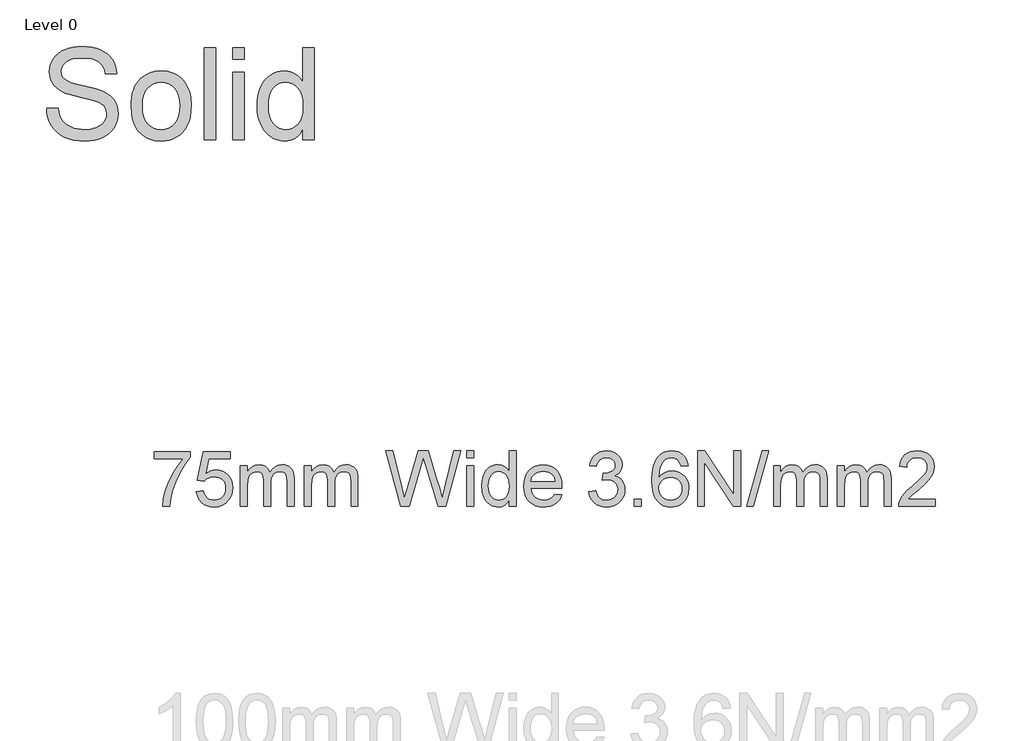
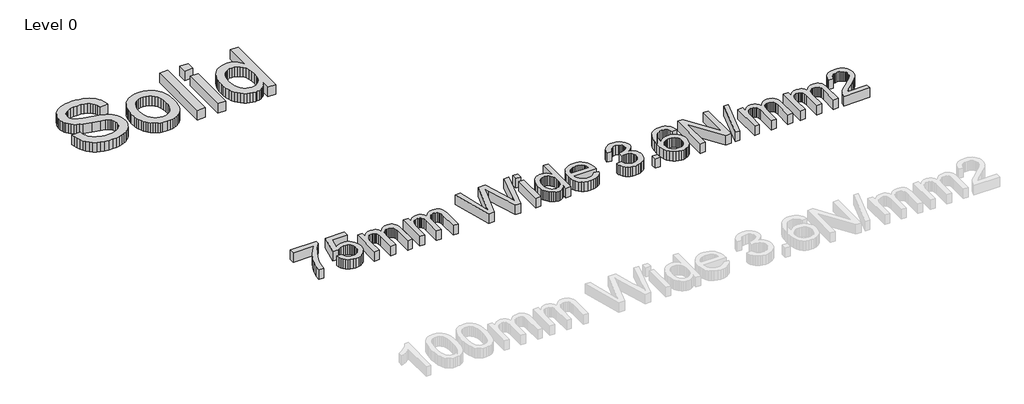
# One storey, part 3 of 4: 2 proxies.
"""IFC4 building model written with IfcOpenShell, lengths in millimetres."""

from ifc_helpers import new_model, si_unit, origin, origin_with_axes, place, context, project, spatial, polyline, outline, extrude, element, save

model = new_model("IFC4")

# Units and contexts
model_context = context("Model", 3, world=origin())
ifc_project = project(units=[si_unit("LENGTHUNIT", "METRE", prefix="MILLI")], contexts=[model_context])

# Site, building, storey
site = spatial("IfcSite", under=ifc_project)
building = spatial("IfcBuilding", under=site)
storey = spatial("IfcBuildingStorey", under=building, Name="Level 0", Elevation=0.0)

# Proxies
placement = place(None, origin())
element("IfcBuildingElementProxy", 1, Name="1000", ObjectType="1000", at=placement, inside=storey, context=model_context, shape_type="SweptSolid", body=[
    extrude(outline(polyline([(-38523.2944991, 23663.4581055), (-38400.8702566, 23663.4581055), (-38395.2661196, 23627.8232659), (-38386.822553, 23595.5210198), (-38375.5395571, 23566.5513672), (-38361.4171316, 23540.9143081), (-38343.7379472, 23518.094262), (-38321.7846743, 23497.5756481), (-38295.5573127, 23479.3584665), (-38265.0558627, 23463.4427172), (-38231.4011515, 23450.5233132), (-38195.7140066, 23441.2951675), (-38157.994428, 23435.7582801), (-38118.2424157, 23433.9126509), (-38050.0363315, 23439.5018437), (-38019.1164392, 23446.4883345), (-37990.3186468, 23456.2694218), (-37964.3528117, 23468.4939128), (-37941.9287912, 23482.810615), (-37923.0465854, 23499.2195283), (-37907.7061941, 23517.7206528), (-37895.8328957, 23537.514465), (-37887.3519683, 23557.8014412), (-37882.2634118, 23578.5815815), (-37880.5672263, 23599.8548858), (-37885.6483106, 23640.8323361), (-37900.8915635, 23676.2504824), (-37913.7138291, 23691.9644827), (-37931.8562888, 23706.4679895), (-37955.3189427, 23719.7610026), (-37984.1017907, 23731.8435222), (-38048.751116, 23751.0619762), (-38162.3581828, 23778.5894975), (-38279.3725649, 23809.5243342), (-38322.0760894, 23824.4313388), (-38354.2438362, 23838.9647343), (-38386.9346358, 23858.4671313), (-38415.1869588, 23880.1514057), (-38439.0008053, 23904.0175574), (-38458.3761752, 23930.0655865), (-38473.3877904, 23958.0264945), (-38484.1103726, 23987.6312826), (-38490.543922, 24018.8799509), (-38492.6884385, 24051.7724994), (-38490.0358136, 24088.2292791), (-38482.0779389, 24123.4755652), (-38468.8148145, 24157.5113577), (-38450.2464404, 24190.3366566), (-38426.5820375, 24220.6139412), (-38398.0308272, 24247.0056907), (-38364.5928093, 24269.5119052), (-38326.2679839, 24288.1325847), (-38284.3490386, 24302.7257576), (-38240.128661, 24313.1494526), (-38193.6068511, 24319.4036695), (-38144.7836089, 24321.4884085), (-38091.5218902, 24319.3065312), (-38041.4881544, 24312.760899), (-37994.6824015, 24301.8515122), (-37951.1046316, 24286.5783706), (-37911.5618404, 24267.0759736), (-37876.8610237, 24243.4788205), (-37847.0021814, 24215.7869111), (-37821.9853135, 24184.0002456), (-37802.0046967, 24149.0453747), (-37787.254608, 24111.8488489), (-37777.7350471, 24072.4106682), (-37773.4460142, 24030.7308328), (-37895.8702566, 24030.7308328), (-37904.059769, 24069.7954043), (-37918.3465824, 24103.7788915), (-37938.730697, 24132.6812944), (-37965.2121127, 24156.5026131), (-37998.2839936, 24175.1232925), (-38038.4395038, 24188.4237778), (-38085.6786432, 24196.404069), (-38140.0014119, 24199.0641661), (-38196.057727, 24196.4339578), (-38243.9544186, 24188.5433328), (-38283.6914865, 24175.3922911), (-38315.2689309, 24156.9808328), (-38339.3293594, 24134.8482274), (-38356.5153797, 24110.5337447), (-38366.826992, 24084.0373846), (-38370.264196, 24055.3591472), (-38367.8282645, 24030.6859997), (-38360.5204697, 24008.3142845), (-38348.3408118, 23988.2440016), (-38331.2892907, 23970.4751509), (-38304.4492102, 23953.6477954), (-38262.1865445, 23936.6411074), (-38204.5012936, 23919.455087), (-38131.3934574, 23902.0897343), (-37996.4159479, 23869.2719076), (-37948.9227543, 23854.4321526), (-37914.7599347, 23840.6385032), (-37877.2271606, 23819.7313358), (-37844.9697476, 23796.2238489), (-37817.9876957, 23770.1160423), (-37796.2810047, 23741.4079161), (-37779.5956206, 23710.248914), (-37767.6774891, 23676.7884795), (-37760.5266102, 23641.0266128), (-37758.1429839, 23602.9633138), (-37760.885275, 23564.6683772), (-37769.1121482, 23527.4942679), (-37782.8236036, 23491.4409861), (-37802.0196411, 23456.5085316), (-37826.3640126, 23424.0493697), (-37855.5204697, 23395.4159653), (-37889.4890126, 23370.6083186), (-37928.2696411, 23349.6264294), (-37970.7340558, 23332.9410452), (-38015.7539569, 23321.0229137), (-38063.3293446, 23313.8720348), (-38113.4602188, 23311.4884085), (-38176.0845825, 23314.0588394), (-38233.4036965, 23321.770132), (-38285.4175607, 23334.6222864), (-38332.1261752, 23352.6153025), (-38373.8134828, 23375.779069), (-38410.7634266, 23404.1434748), (-38442.9760065, 23437.7085198), (-38470.4512225, 23476.474204), (-38492.5838279, 23519.1852007), (-38508.7685758, 23564.5861831), (-38519.0054662, 23612.6771514), (-38523.2944991, 23663.4581055)])), origin_with_axes(), (0.0, 0.0, 1.0), 150.0),
    extrude(outline(polyline([(-37620.4157112, 23686.4126509), (-37618.7606227, 23734.5970215), (-37613.7953573, 23779.5608813), (-37605.5199148, 23821.3042303), (-37593.9342955, 23859.8270686), (-37579.0384991, 23895.129396), (-37560.8325258, 23927.2112127), (-37539.3163755, 23956.0725187), (-37514.4900483, 23981.7133138), (-37467.8337391, 24016.5486299), (-37416.3354555, 24041.4309985), (-37359.9951975, 24056.3604196), (-37298.812965, 24061.3368934), (-37231.271905, 24055.2769531), (-37199.9279663, 24047.7020279), (-37170.2017552, 24037.0971325), (-37142.0932717, 24023.462267), (-37115.6025158, 24006.7974314), (-37090.7294874, 23987.1026256), (-37067.4741866, 23964.3778498), (-37046.4306519, 23938.9817686), (-37028.1929218, 23911.2730469), (-37012.7609963, 23881.2516846), (-37000.1348755, 23848.9176817), (-36990.3145593, 23814.2710383), (-36983.3000477, 23777.3117543), (-36977.6884385, 23696.4552646), (-36980.1692031, 23630.9242217), (-36987.6114972, 23572.7756955), (-37000.0153206, 23522.0096857), (-37017.3806733, 23478.6261926), (-37039.4908621, 23441.153196), (-37066.1291937, 23408.118676), (-37097.295668, 23379.5226326), (-37132.990285, 23355.3650657), (-37171.8232189, 23336.1690282), (-37212.4046435, 23322.4575728), (-37254.7345588, 23314.2306996), (-37298.812965, 23311.4884085), (-37367.3403531, 23317.5259322), (-37399.02054, 23325.0728368), (-37428.9783887, 23335.6385032), (-37457.2138994, 23349.2229315), (-37483.7270719, 23365.8261216), (-37508.5179062, 23385.4480735), (-37531.5864025, 23408.0887873), (-37552.4057717, 23433.5689305), (-37570.449225, 23461.7091708), (-37585.7167625, 23492.5095082), (-37598.208384, 23525.9699426), (-37607.9240896, 23562.0904741), (-37614.8638794, 23600.8711026), (-37620.4157112, 23686.4126509)]), holes=[polyline([(-37497.9914688, 23686.6517608), (-37494.4496541, 23627.2703244), (-37483.8242102, 23575.8542348), (-37466.1151371, 23532.403492), (-37441.3224347, 23496.918096), (-37411.164705, 23469.3532138), (-37377.3605502, 23449.6640122), (-37339.9099702, 23437.8504913), (-37298.812965, 23433.9126509), (-37257.9251809, 23437.8729078), (-37220.6240445, 23449.7536784), (-37186.9095559, 23469.5549627), (-37156.781715, 23497.2767608), (-37131.9890126, 23533.1133493), (-37114.2799394, 23577.2590051), (-37103.6544955, 23629.7137281), (-37100.1126809, 23690.4775184), (-37103.6769121, 23747.9759647), (-37114.3696056, 23798.0470615), (-37132.1907615, 23840.6908085), (-37157.1403797, 23875.9072059), (-37187.3803034, 23903.4720881), (-37221.0723755, 23923.1612897), (-37258.216596, 23934.9748106), (-37298.812965, 23938.9126509), (-37339.9099702, 23934.989755), (-37377.3605502, 23923.2210671), (-37411.164705, 23903.6065874), (-37441.3224347, 23876.1463157), (-37466.1151371, 23840.7655303), (-37483.8242102, 23797.3895094), (-37494.4496541, 23746.0182529), (-37497.9914688, 23686.6517608)])]), origin_with_axes(), (0.0, 0.0, 1.0), 150.0),
    extrude(outline(polyline([(-36839.9611657, 23326.7914388), (-36839.9611657, 24306.1853782), (-36717.5369233, 24306.1853782), (-36717.5369233, 23326.7914388), (-36839.9611657, 23326.7914388)])), origin_with_axes(), (0.0, 0.0, 1.0), 150.0),
    extrude(outline(polyline([(-36533.9005597, 23326.7914388), (-36533.9005597, 24046.0338631), (-36411.4763172, 24046.0338631), (-36411.4763172, 23326.7914388), (-36533.9005597, 23326.7914388)])), origin_with_axes(), (0.0, 0.0, 1.0), 150.0),
    extrude(outline(polyline([(-36533.9005597, 24183.7611358), (-36533.9005597, 24306.1853782), (-36411.4763172, 24306.1853782), (-36411.4763172, 24183.7611358), (-36533.9005597, 24183.7611358)])), origin_with_axes(), (0.0, 0.0, 1.0), 150.0),
    extrude(outline(polyline([(-35784.0520748, 23326.7914388), (-35784.0520748, 23442.2814956), (-35801.3987471, 23411.6268658), (-35820.6807147, 23385.05952), (-35841.8979777, 23362.5794582), (-35865.050536, 23344.1866803), (-35890.1383896, 23329.8811864), (-35917.1615386, 23319.6629765), (-35946.1199829, 23313.5320505), (-35977.0137225, 23311.4884085), (-36017.4232869, 23314.4473929), (-36056.1590824, 23323.324346), (-36093.2211089, 23338.1192679), (-36128.6093665, 23358.8321585), (-36161.2179721, 23384.8428267), (-36189.9410426, 23415.5310813), (-36214.7785781, 23450.8969224), (-36235.7305786, 23490.9403498), (-36252.3636574, 23534.899201), (-36264.244428, 23582.0113133), (-36271.3728904, 23632.2766868), (-36273.7490445, 23685.6953214), (-36271.559695, 23738.1351), (-36264.9916463, 23788.094114), (-36254.0448986, 23835.5723633), (-36238.7194517, 23880.5698479), (-36219.0227779, 23921.7714637), (-36194.9623494, 23957.8621064), (-36166.5381662, 23988.8417762), (-36133.7502282, 24014.7104729), (-36097.7567239, 24035.1095319), (-36059.7158414, 24049.6802883), (-36019.6275809, 24058.4227421), (-35977.4919422, 24061.3368934), (-35946.6766605, 24059.2521544), (-35917.5949252, 24052.9979374), (-35890.2467363, 24042.5742424), (-35864.6320938, 24027.9810695), (-35841.0349406, 24010.0553031), (-35819.7392197, 23989.6338276), (-35800.7449311, 23966.716643), (-35784.0520748, 23941.3037494), (-35784.0520748, 24306.1853782), (-35661.6278324, 24306.1853782), (-35661.6278324, 23326.7914388), (-35784.0520748, 23326.7914388)]), holes=[polyline([(-36151.3248021, 23686.1735411), (-36147.8726537, 23626.807049), (-36137.5162083, 23575.4357925), (-36120.2554662, 23532.0597716), (-36096.0904271, 23496.6789862), (-36067.2328573, 23469.2187145), (-36035.8945227, 23449.6042348), (-36002.0754235, 23437.8355469), (-35965.7755597, 23433.9126509), (-35929.3038356, 23437.6562145), (-35895.6864853, 23448.8869052), (-35864.9235089, 23467.604723), (-35837.0149063, 23493.809668), (-35813.8436675, 23527.7109612), (-35797.2927827, 23569.5178238), (-35787.3622518, 23619.2302557), (-35784.0520748, 23676.848257), (-35787.4220292, 23740.0180901), (-35797.5318925, 23794.1914151), (-35814.3816647, 23839.3682321), (-35837.9713457, 23875.5485411), (-35866.4926673, 23903.2703392), (-35898.1373613, 23923.0716235), (-35932.9054277, 23934.9523941), (-35970.7968665, 23938.9126509), (-36007.8140599, 23935.1093099), (-36041.6331591, 23923.6992868), (-36072.2541641, 23904.6825817), (-36099.6770748, 23878.0591945), (-36122.2729555, 23843.246295), (-36138.4128703, 23799.6610529), (-36148.0968191, 23747.3034683), (-36151.3248021, 23686.1735411)])]), origin_with_axes(), (0.0, 0.0, 1.0), 150.0),
])
element("IfcBuildingElementProxy", 2, Name="600mm Arial", ObjectType="600mm Arial", at=placement, inside=storey, context=model_context, shape_type="SweptSolid", body=[
    extrude(outline(polyline([(-37374.294588, 19918.2501483), (-37374.294588, 19992.0963022), (-36986.6022803, 19992.0963022), (-36986.6022803, 19932.3847637), (-37041.8606938, 19862.4508695), (-37096.5782419, 19773.5145714), (-37144.841463, 19673.6888503), (-37180.7368957, 19571.0866868), (-37198.3330495, 19494.3198599), (-37208.1407419, 19410.5578406), (-37281.9868957, 19410.5578406), (-37274.0001169, 19486.6756291), (-37252.6359342, 19577.1443791), (-37218.4712707, 19673.0398118), (-37172.0830495, 19765.4376483), (-37117.9243957, 19848.9652926), (-37060.4484342, 19918.2501483), (-37374.294588, 19918.2501483)])), origin_with_axes(), (0.0, 0.0, 1.0), 150.0),
    extrude(outline(polyline([(-36921.9868957, 19567.4809176), (-36848.1407419, 19576.7116868), (-36842.6239149, 19552.9722036), (-36834.5830495, 19532.3787541), (-36824.0181457, 19514.9313382), (-36810.9292034, 19500.629956), (-36795.3432659, 19489.4926363), (-36777.2873765, 19481.537408), (-36756.7615351, 19476.7642709), (-36733.7657419, 19475.1732253), (-36705.6407419, 19477.3862661), (-36680.8330495, 19484.0253887), (-36659.3426649, 19495.090593), (-36641.169588, 19510.5818791), (-36626.7194678, 19529.7330209), (-36616.3979534, 19551.7777926), (-36610.2050447, 19576.716194), (-36608.1407419, 19604.5482253), (-36610.0743356, 19630.8523118), (-36615.8751169, 19654.2357253), (-36625.5430856, 19674.6984656), (-36639.0782419, 19692.240533), (-36656.5256577, 19706.3120474), (-36677.9304053, 19716.3631291), (-36703.2924846, 19722.3937781), (-36732.6118957, 19724.4039945), (-36768.435213, 19721.1948599), (-36797.4436265, 19711.567456), (-36820.6106938, 19696.8198599), (-36838.9099726, 19678.2501483), (-36912.7561265, 19687.4809176), (-36848.1407419, 19992.0963022), (-36561.9868957, 19992.0963022), (-36561.9868957, 19918.2501483), (-36788.4292034, 19918.2501483), (-36820.0157419, 19755.5578406), (-36793.9550447, 19774.2357253), (-36767.263338, 19787.5770714), (-36739.9406217, 19795.5818791), (-36711.9868957, 19798.2501483), (-36676.0238548, 19794.9418551), (-36642.9905015, 19785.0169753), (-36612.8868356, 19768.4755089), (-36585.7128572, 19745.317456), (-36563.2173645, 19716.958081), (-36547.1491553, 19684.8126483), (-36537.5082298, 19648.881158), (-36534.294588, 19609.1636099), (-36537.1882178, 19570.9063983), (-36545.8691072, 19535.317456), (-36560.3372563, 19502.396783), (-36580.5926649, 19472.1443791), (-36611.2777611, 19441.161807), (-36647.0830495, 19419.0313983), (-36688.0085303, 19405.7531531), (-36734.0542034, 19401.3270714), (-36772.162677, 19404.1711219), (-36806.5842515, 19412.7032733), (-36837.318927, 19426.9235257), (-36864.3667034, 19446.8318791), (-36886.8712106, 19471.4367469), (-36903.9760784, 19499.7465426), (-36915.6813068, 19531.7612661), (-36921.9868957, 19567.4809176)])), origin_with_axes(), (0.0, 0.0, 1.0), 150.0),
    extrude(outline(polyline([(-36451.2176649, 19410.5578406), (-36451.2176649, 19844.4039945), (-36377.3715111, 19844.4039945), (-36377.3715111, 19773.0097637), (-36355.1599726, 19805.8042349), (-36326.6022803, 19831.4953406), (-36292.6719919, 19848.099908), (-36254.3426649, 19853.6347637), (-36213.2729534, 19847.9917349), (-36195.793987, 19840.9379488), (-36180.3522803, 19831.0626483), (-36155.7609342, 19803.9652926), (-36139.6792034, 19767.817456), (-36112.7621361, 19805.3625281), (-36082.0590111, 19832.1804368), (-36047.5698284, 19848.271182), (-36009.294588, 19853.6347637), (-35979.7317875, 19851.403694), (-35953.7837707, 19844.7104849), (-35931.4505375, 19833.5551363), (-35912.732088, 19817.9376483), (-35897.9349125, 19797.6777325), (-35887.3655015, 19772.5951003), (-35881.0238548, 19742.6897517), (-35878.9099726, 19707.9616868), (-35878.9099726, 19410.5578406), (-35952.7561265, 19410.5578406), (-35952.7561265, 19676.2309176), (-35954.4688669, 19713.0638503), (-35959.607088, 19737.8895714), (-35969.2344919, 19754.8907733), (-35984.4147803, 19768.2501483), (-36003.9400207, 19776.9039945), (-36026.6022803, 19779.7886099), (-36047.5292635, 19777.9406531), (-36066.6082899, 19772.396783), (-36083.8393596, 19763.1569993), (-36099.2224726, 19750.2213022), (-36111.8742154, 19733.2110858), (-36120.9111745, 19711.7477445), (-36126.33335, 19685.8312781), (-36128.1407419, 19655.4616868), (-36128.1407419, 19410.5578406), (-36201.9868957, 19410.5578406), (-36201.9868957, 19684.4520714), (-36206.2597322, 19726.2068791), (-36219.0782419, 19755.990533), (-36228.9896, 19766.4021916), (-36241.6323284, 19773.8390906), (-36257.006427, 19778.3012301), (-36275.1118957, 19779.7886099), (-36303.5614149, 19775.8222637), (-36329.7753572, 19763.9232253), (-36351.4099726, 19744.379956), (-36366.1215111, 19717.4809176), (-36374.5590111, 19680.161206), (-36377.3715111, 19629.3559176), (-36377.3715111, 19410.5578406), (-36451.2176649, 19410.5578406)])), origin_with_axes(), (0.0, 0.0, 1.0), 150.0),
    extrude(outline(polyline([(-35768.1407419, 19410.5578406), (-35768.1407419, 19844.4039945), (-35694.294588, 19844.4039945), (-35694.294588, 19773.0097637), (-35672.0830495, 19805.8042349), (-35643.5253572, 19831.4953406), (-35609.5950688, 19848.099908), (-35571.2657419, 19853.6347637), (-35530.1960303, 19847.9917349), (-35512.717064, 19840.9379488), (-35497.2753572, 19831.0626483), (-35472.6840111, 19803.9652926), (-35456.6022803, 19767.817456), (-35429.685213, 19805.3625281), (-35398.982088, 19832.1804368), (-35364.4929053, 19848.271182), (-35326.2176649, 19853.6347637), (-35296.6548645, 19851.403694), (-35270.7068476, 19844.7104849), (-35248.3736145, 19833.5551363), (-35229.6551649, 19817.9376483), (-35214.8579895, 19797.6777325), (-35204.2885784, 19772.5951003), (-35197.9469318, 19742.6897517), (-35195.8330495, 19707.9616868), (-35195.8330495, 19410.5578406), (-35269.6792034, 19410.5578406), (-35269.6792034, 19676.2309176), (-35271.3919438, 19713.0638503), (-35276.5301649, 19737.8895714), (-35286.1575688, 19754.8907733), (-35301.3378572, 19768.2501483), (-35320.8630976, 19776.9039945), (-35343.5253572, 19779.7886099), (-35364.4523404, 19777.9406531), (-35383.5313669, 19772.396783), (-35400.7624366, 19763.1569993), (-35416.1455495, 19750.2213022), (-35428.7972923, 19733.2110858), (-35437.8342515, 19711.7477445), (-35443.256427, 19685.8312781), (-35445.0638188, 19655.4616868), (-35445.0638188, 19410.5578406), (-35518.9099726, 19410.5578406), (-35518.9099726, 19684.4520714), (-35523.1828092, 19726.2068791), (-35536.0013188, 19755.990533), (-35545.912677, 19766.4021916), (-35558.5554053, 19773.8390906), (-35573.9295039, 19778.3012301), (-35592.0349726, 19779.7886099), (-35620.4844919, 19775.8222637), (-35646.6984342, 19763.9232253), (-35668.3330495, 19744.379956), (-35683.044588, 19717.4809176), (-35691.482088, 19680.161206), (-35694.294588, 19629.3559176), (-35694.294588, 19410.5578406), (-35768.1407419, 19410.5578406)])), origin_with_axes(), (0.0, 0.0, 1.0), 150.0),
    extrude(outline(polyline([(-34739.3426649, 19410.5578406), (-34900.4484342, 20001.3270714), (-34824.294588, 20001.3270714), (-34730.8330495, 19613.0578406), (-34701.9868957, 19493.2020714), (-34671.1215111, 19599.2116868), (-34554.0061265, 20001.3270714), (-34444.2465111, 20001.3270714), (-34359.1503572, 19709.8366868), (-34322.6960303, 19601.6636099), (-34295.8330495, 19493.2020714), (-34267.8522803, 19609.5963022), (-34173.5253572, 20001.3270714), (-34097.3715111, 20001.3270714), (-34258.6215111, 19410.5578406), (-34337.5157419, 19410.5578406), (-34479.1503572, 19866.3270714), (-34498.9099726, 19929.9328406), (-34521.1215111, 19853.3463022), (-34650.2080495, 19410.5578406), (-34739.3426649, 19410.5578406)])), origin_with_axes(), (0.0, 0.0, 1.0), 150.0),
    extrude(outline(polyline([(-34032.7561265, 19927.4809176), (-34032.7561265, 20001.3270714), (-33958.9099726, 20001.3270714), (-33958.9099726, 19927.4809176), (-34032.7561265, 19927.4809176)])), origin_with_axes(), (0.0, 0.0, 1.0), 150.0),
    extrude(outline(polyline([(-34032.7561265, 19410.5578406), (-34032.7561265, 19844.4039945), (-33958.9099726, 19844.4039945), (-33958.9099726, 19410.5578406), (-34032.7561265, 19410.5578406)])), origin_with_axes(), (0.0, 0.0, 1.0), 150.0),
    extrude(outline(polyline([(-33580.4484342, 19410.5578406), (-33580.4484342, 19480.2213022), (-33602.5427851, 19445.7050762), (-33629.3066072, 19421.0506291), (-33660.7399005, 19406.2579608), (-33696.8426649, 19401.3270714), (-33721.2176649, 19403.1119272), (-33744.5830495, 19408.4664945), (-33766.9388188, 19417.3907733), (-33788.2849726, 19429.8847637), (-33807.9544438, 19445.5743671), (-33825.2801649, 19464.0854849), (-33840.2621361, 19485.4181171), (-33852.9003572, 19509.5722637), (-33862.9334101, 19536.0881892), (-33870.0998765, 19564.506158), (-33875.8330495, 19627.0482253), (-33870.5505976, 19688.8150522), (-33854.7032419, 19744.5963022), (-33842.8222322, 19769.4490666), (-33828.3090111, 19791.2188983), (-33811.1635784, 19809.9057974), (-33791.3859342, 19825.5097637), (-33769.6746962, 19837.8144512), (-33746.7284822, 19846.6035137), (-33722.5472923, 19851.8769512), (-33697.1311265, 19853.6347637), (-33661.0013188, 19848.6047156), (-33629.0542034, 19833.5145714), (-33601.9748765, 19810.3835618), (-33580.4484342, 19781.2309176), (-33580.4484342, 20001.3270714), (-33506.6022803, 20001.3270714), (-33506.6022803, 19410.5578406), (-33580.4484342, 19410.5578406)]), holes=[polyline([(-33801.9868957, 19627.3366868), (-33799.904564, 19591.5268911), (-33793.6575688, 19560.5398118), (-33783.2459101, 19534.3754488), (-33768.669588, 19513.0338022), (-33751.262737, 19496.4697998), (-33732.3594919, 19484.6383695), (-33711.9598524, 19477.5395113), (-33690.0638188, 19475.1732253), (-33668.0641193, 19477.4313382), (-33647.7861745, 19484.2056772), (-33629.2299846, 19495.4962421), (-33612.3955495, 19511.303033), (-33598.4186866, 19531.7522517), (-33588.435213, 19556.9701003), (-33582.4451289, 19586.9565786), (-33580.4484342, 19621.7116868), (-33582.4811866, 19659.8156531), (-33588.5794438, 19692.4929368), (-33598.7432058, 19719.7435378), (-33612.9724726, 19741.567456), (-33630.1764991, 19758.2892108), (-33649.2645399, 19770.2333214), (-33670.2365952, 19777.3997878), (-33693.0926649, 19779.7886099), (-33715.4213909, 19777.4944392), (-33735.8210303, 19770.6119272), (-33754.2915832, 19759.1410738), (-33770.8330495, 19743.0818791), (-33784.4628572, 19722.0827805), (-33794.1984342, 19695.7922156), (-33800.0397803, 19664.2101844), (-33801.9868957, 19627.3366868)])]), origin_with_axes(), (0.0, 0.0, 1.0), 150.0),
    extrude(outline(polyline([(-33092.0830495, 19539.7886099), (-33019.6792034, 19530.5578406), (-33030.7804654, 19501.5584416), (-33045.7669438, 19476.0025522), (-33064.6386385, 19453.8901724), (-33087.3955495, 19435.2213022), (-33113.803302, 19420.3925762), (-33143.6275207, 19409.8006291), (-33176.8682058, 19403.4454608), (-33213.5253572, 19401.3270714), (-33259.3456697, 19404.98242), (-33300.1719919, 19415.9484656), (-33336.0043236, 19434.2252084), (-33366.8426649, 19459.8126483), (-33391.6413428, 19491.9986459), (-33409.3546842, 19530.0710618), (-33419.982689, 19574.0298959), (-33423.5253572, 19623.8751483), (-33419.9466313, 19675.4106051), (-33409.2104534, 19720.834283), (-33391.3168236, 19760.146182), (-33366.2657419, 19793.3463022), (-33335.5085303, 19819.7225041), (-33300.4965111, 19838.5626483), (-33261.2296842, 19849.8667349), (-33217.7080495, 19853.6347637), (-33175.5881577, 19849.8757493), (-33137.497713, 19838.598706), (-33103.4367154, 19819.8036339), (-33073.4051649, 19793.490533), (-33048.8904414, 19760.3625281), (-33031.3799245, 19721.1227445), (-33020.8736145, 19675.771182), (-33017.3715111, 19624.3078406), (-33017.8042034, 19604.4039945), (-33349.6792034, 19604.4039945), (-33345.4018596, 19574.9358455), (-33336.8967515, 19549.1275522), (-33324.1638789, 19526.9791147), (-33307.2032419, 19508.490533), (-33286.9523404, 19493.9142108), (-33264.3486745, 19483.5025522), (-33239.3922443, 19477.255557), (-33212.0830495, 19475.1732253), (-33172.7801649, 19479.0313983), (-33139.6792034, 19490.6059176), (-33112.7801649, 19510.6179368), (-33092.0830495, 19539.7886099)]), holes=[polyline([(-33349.6792034, 19678.2501483), (-33091.2176649, 19678.2501483), (-33101.2056457, 19717.2645714), (-33109.7963909, 19732.6071195), (-33120.7849726, 19745.1732253), (-33140.9231938, 19760.317456), (-33163.8378572, 19771.1347637), (-33189.528963, 19777.6251483), (-33217.9965111, 19779.7886099), (-33243.9625568, 19778.0623479), (-33267.7741553, 19772.8835618), (-33289.4313068, 19764.2522517), (-33308.9340111, 19752.1684176), (-33325.2996962, 19737.1909536), (-33337.5457899, 19719.8787541), (-33345.6722923, 19700.231819), (-33349.6792034, 19678.2501483)])]), origin_with_axes(), (0.0, 0.0, 1.0), 150.0),
    extrude(outline(polyline([(-32731.2176649, 19567.4809176), (-32657.3715111, 19576.7116868), (-32640.8390592, 19530.3054368), (-32629.692725, 19512.7543551), (-32616.6263188, 19498.9713022), (-32601.3423645, 19488.5596435), (-32583.5433861, 19481.1227445), (-32563.2293837, 19476.6606051), (-32540.4003572, 19475.1732253), (-32513.6455495, 19477.2194993), (-32489.7753572, 19483.3583214), (-32468.7897803, 19493.5896916), (-32450.6888188, 19507.9136099), (-32436.1124967, 19525.2573599), (-32425.700838, 19544.5482253), (-32419.4538428, 19565.786206), (-32417.3715111, 19588.9713022), (-32419.435814, 19611.0521315), (-32425.6287226, 19631.1407733), (-32435.950237, 19649.2372277), (-32450.4003572, 19665.3414945), (-32468.0325688, 19678.5611459), (-32487.9003572, 19688.0037541), (-32510.0037226, 19693.669319), (-32534.3426649, 19695.5578406), (-32557.6719919, 19693.5386099), (-32586.1215111, 19687.4809176), (-32577.9003572, 19761.3270714), (-32566.0734342, 19760.4616868), (-32521.8306457, 19765.7621676), (-32482.2753572, 19781.6636099), (-32465.9953092, 19793.6888503), (-32454.3667034, 19808.5626483), (-32447.3895399, 19826.2850041), (-32445.0638188, 19846.8559176), (-32446.7495159, 19863.5551363), (-32451.8066072, 19878.7489464), (-32460.2350928, 19892.4373479), (-32472.0349726, 19904.6203406), (-32486.4941072, 19914.621843), (-32502.9003572, 19921.7657733), (-32541.5542034, 19927.4809176), (-32580.2801649, 19921.7116868), (-32596.9929053, 19914.5001483), (-32611.9388188, 19904.4039945), (-32624.748314, 19891.4232253), (-32635.0517995, 19875.5578406), (-32642.8492755, 19856.8078406), (-32648.1407419, 19835.1732253), (-32721.9868957, 19844.4039945), (-32713.2338909, 19879.6594031), (-32700.2441072, 19910.7140906), (-32683.0175447, 19937.568057), (-32661.5542034, 19960.2213022), (-32636.5301649, 19978.2050762), (-32608.6215111, 19991.0506291), (-32577.8282419, 19998.7579608), (-32544.1503572, 20001.3270714), (-32497.7260784, 19996.2609656), (-32455.0878572, 19981.0626483), (-32419.138338, 19957.084283), (-32392.7801649, 19925.678033), (-32376.6082899, 19889.4941387), (-32371.2176649, 19851.1828406), (-32376.3378572, 19815.4857253), (-32391.6984342, 19783.1059176), (-32417.0830495, 19755.521783), (-32452.2753572, 19734.2116868), (-32427.6659822, 19726.5133695), (-32406.0493957, 19715.5338022), (-32387.4255976, 19701.2729849), (-32371.794588, 19683.7309176), (-32359.4267995, 19663.3402926), (-32350.5926649, 19640.5338022), (-32345.2921842, 19615.3114464), (-32343.5253572, 19587.6732253), (-32347.0590111, 19550.209283), (-32357.6599726, 19515.7020714), (-32375.3282419, 19484.1515906), (-32400.0638188, 19455.5578406), (-32430.1990351, 19431.8318791), (-32464.0662226, 19414.8847637), (-32501.6653813, 19404.7164945), (-32542.9965111, 19401.3270714), (-32580.3522803, 19404.2207012), (-32614.3907419, 19412.9015906), (-32645.1118957, 19427.3697397), (-32672.5157419, 19447.6251483), (-32695.4935063, 19472.4779128), (-32712.9364149, 19500.7381291), (-32724.8444678, 19532.4057974), (-32731.2176649, 19567.4809176)])), origin_with_axes(), (0.0, 0.0, 1.0), 150.0),
    extrude(outline(polyline([(-32241.9868957, 19410.5578406), (-32241.9868957, 19484.4039945), (-32168.1407419, 19484.4039945), (-32168.1407419, 19410.5578406), (-32241.9868957, 19410.5578406)])), origin_with_axes(), (0.0, 0.0, 1.0), 150.0),
    extrude(outline(polyline([(-31669.6792034, 19844.4039945), (-31743.5253572, 19835.1732253), (-31755.4243957, 19871.771783), (-31771.5061265, 19896.7597637), (-31787.3805255, 19910.2002685), (-31805.0037226, 19919.8006291), (-31824.3757178, 19925.5608455), (-31845.4965111, 19927.4809176), (-31879.8234342, 19923.0097637), (-31912.1311265, 19909.5963022), (-31939.8775207, 19881.3451003), (-31962.5397803, 19842.4568791), (-31971.396451, 19817.653694), (-31977.8462707, 19787.4508695), (-31983.5253572, 19710.8463022), (-31953.903963, 19745.4076003), (-31918.4051649, 19769.7645714), (-31879.0121361, 19784.2056772), (-31837.7080495, 19789.0193791), (-31802.2272803, 19785.7291147), (-31769.4868957, 19775.8583214), (-31739.4868957, 19759.4069993), (-31712.2272803, 19736.3751483), (-31689.5740351, 19708.1329608), (-31673.3931457, 19676.0506291), (-31663.684612, 19640.1281531), (-31660.4484342, 19600.365533), (-31666.5421842, 19547.4869272), (-31674.1593717, 19522.4944392), (-31684.8234342, 19498.4664945), (-31698.1557659, 19476.3000281), (-31713.7777611, 19456.8919753), (-31731.6894197, 19440.2423358), (-31751.8907419, 19426.3511099), (-31773.9490351, 19415.403093), (-31797.4316072, 19407.583081), (-31822.3384582, 19402.8910738), (-31848.669588, 19401.3270714), (-31892.6915231, 19405.473706), (-31932.4496361, 19417.9136099), (-31967.943927, 19438.646783), (-31999.1743957, 19467.6732253), (-32024.6356337, 19506.2188983), (-32042.8222322, 19555.5097637), (-32053.7341914, 19615.5458214), (-32057.3715111, 19686.3270714), (-32053.3330495, 19765.6810378), (-32041.2176649, 19833.4063983), (-32021.0253572, 19889.5031531), (-32007.9003572, 19913.1908034), (-31992.7561265, 19933.9713022), (-31962.1161024, 19963.4394512), (-31926.5902611, 19984.4881291), (-31886.1786024, 19997.1173358), (-31840.8811265, 20001.3270714), (-31806.8697082, 19998.7219031), (-31776.0854534, 19990.9063983), (-31748.528362, 19977.880557), (-31724.1984342, 19959.6443791), (-31703.7537226, 19936.8108455), (-31687.8522803, 19909.9929368), (-31676.4941072, 19879.1906531), (-31669.6792034, 19844.4039945)]), holes=[polyline([(-31983.5253572, 19601.5193791), (-31979.2525207, 19568.7970233), (-31966.4340111, 19537.553033), (-31946.5301649, 19510.6900522), (-31921.0013188, 19491.1107253), (-31890.1900207, 19479.1576003), (-31854.4388188, 19475.1732253), (-31828.7702491, 19477.2375281), (-31805.7068476, 19483.4304368), (-31785.2486145, 19493.7519512), (-31767.3955495, 19508.2020714), (-31752.9138789, 19526.1948599), (-31742.5698284, 19547.1443791), (-31736.3633981, 19571.0506291), (-31734.294588, 19597.9136099), (-31736.3363548, 19623.7264104), (-31742.4616553, 19646.645581), (-31752.6704895, 19666.6711219), (-31766.9628572, 19683.803033), (-31784.8700087, 19697.5274921), (-31805.9231938, 19707.3306772), (-31830.1224125, 19713.2125882), (-31857.4676649, 19715.1732253), (-31882.7936866, 19713.2125882), (-31906.1275207, 19707.3306772), (-31927.4691673, 19697.5274921), (-31946.8186265, 19683.803033), (-31962.8778212, 19666.8964825), (-31974.3486745, 19647.5470233), (-31981.2311866, 19625.7546555), (-31983.5253572, 19601.5193791)])]), origin_with_axes(), (0.0, 0.0, 1.0), 150.0),
    extrude(outline(polyline([(-31568.1407419, 19410.5578406), (-31568.1407419, 20001.3270714), (-31489.1022803, 20001.3270714), (-31180.4484342, 19533.2982253), (-31180.4484342, 20001.3270714), (-31106.6022803, 20001.3270714), (-31106.6022803, 19410.5578406), (-31185.6407419, 19410.5578406), (-31494.294588, 19878.7309176), (-31494.294588, 19410.5578406), (-31568.1407419, 19410.5578406)])), origin_with_axes(), (0.0, 0.0, 1.0), 150.0),
    extrude(outline(polyline([(-31041.9868957, 19410.5578406), (-30875.8330495, 20001.3270714), (-30809.1984342, 20001.3270714), (-30975.3522803, 19410.5578406), (-31041.9868957, 19410.5578406)])), origin_with_axes(), (0.0, 0.0, 1.0), 150.0),
    extrude(outline(polyline([(-30755.8330495, 19410.5578406), (-30755.8330495, 19844.4039945), (-30681.9868957, 19844.4039945), (-30681.9868957, 19773.0097637), (-30659.7753572, 19805.8042349), (-30631.2176649, 19831.4953406), (-30597.2873765, 19848.099908), (-30558.9580495, 19853.6347637), (-30517.888338, 19847.9917349), (-30500.4093717, 19840.9379488), (-30484.9676649, 19831.0626483), (-30460.3763188, 19803.9652926), (-30444.294588, 19767.817456), (-30417.3775207, 19805.3625281), (-30386.6743957, 19832.1804368), (-30352.185213, 19848.271182), (-30313.9099726, 19853.6347637), (-30284.3471721, 19851.403694), (-30258.3991553, 19844.7104849), (-30236.0659221, 19833.5551363), (-30217.3474726, 19817.9376483), (-30202.5502971, 19797.6777325), (-30191.9808861, 19772.5951003), (-30185.6392395, 19742.6897517), (-30183.5253572, 19707.9616868), (-30183.5253572, 19410.5578406), (-30257.3715111, 19410.5578406), (-30257.3715111, 19676.2309176), (-30259.0842515, 19713.0638503), (-30264.2224726, 19737.8895714), (-30273.8498765, 19754.8907733), (-30289.0301649, 19768.2501483), (-30308.5554053, 19776.9039945), (-30331.2176649, 19779.7886099), (-30352.1446481, 19777.9406531), (-30371.2236745, 19772.396783), (-30388.4547443, 19763.1569993), (-30403.8378572, 19750.2213022), (-30416.4896, 19733.2110858), (-30425.5265592, 19711.7477445), (-30430.9487346, 19685.8312781), (-30432.7561265, 19655.4616868), (-30432.7561265, 19410.5578406), (-30506.6022803, 19410.5578406), (-30506.6022803, 19684.4520714), (-30510.8751169, 19726.2068791), (-30523.6936265, 19755.990533), (-30533.6049846, 19766.4021916), (-30546.247713, 19773.8390906), (-30561.6218116, 19778.3012301), (-30579.7272803, 19779.7886099), (-30608.1767995, 19775.8222637), (-30634.3907419, 19763.9232253), (-30656.0253572, 19744.379956), (-30670.7368957, 19717.4809176), (-30679.1743957, 19680.161206), (-30681.9868957, 19629.3559176), (-30681.9868957, 19410.5578406), (-30755.8330495, 19410.5578406)])), origin_with_axes(), (0.0, 0.0, 1.0), 150.0),
    extrude(outline(polyline([(-30072.7561265, 19410.5578406), (-30072.7561265, 19844.4039945), (-29998.9099726, 19844.4039945), (-29998.9099726, 19773.0097637), (-29976.6984342, 19805.8042349), (-29948.1407419, 19831.4953406), (-29914.2104534, 19848.099908), (-29875.8811265, 19853.6347637), (-29834.8114149, 19847.9917349), (-29817.3324486, 19840.9379488), (-29801.8907419, 19831.0626483), (-29777.2993957, 19803.9652926), (-29761.2176649, 19767.817456), (-29734.3005976, 19805.3625281), (-29703.5974726, 19832.1804368), (-29669.1082899, 19848.271182), (-29630.8330495, 19853.6347637), (-29601.2702491, 19851.403694), (-29575.3222322, 19844.7104849), (-29552.9889991, 19833.5551363), (-29534.2705495, 19817.9376483), (-29519.4733741, 19797.6777325), (-29508.903963, 19772.5951003), (-29502.5623164, 19742.6897517), (-29500.4484342, 19707.9616868), (-29500.4484342, 19410.5578406), (-29574.294588, 19410.5578406), (-29574.294588, 19676.2309176), (-29576.0073284, 19713.0638503), (-29581.1455495, 19737.8895714), (-29590.7729534, 19754.8907733), (-29605.9532419, 19768.2501483), (-29625.4784822, 19776.9039945), (-29648.1407419, 19779.7886099), (-29669.067725, 19777.9406531), (-29688.1467515, 19772.396783), (-29705.3778212, 19763.1569993), (-29720.7609342, 19750.2213022), (-29733.412677, 19733.2110858), (-29742.4496361, 19711.7477445), (-29747.8718116, 19685.8312781), (-29749.6792034, 19655.4616868), (-29749.6792034, 19410.5578406), (-29823.5253572, 19410.5578406), (-29823.5253572, 19684.4520714), (-29827.7981938, 19726.2068791), (-29840.6167034, 19755.990533), (-29850.5280616, 19766.4021916), (-29863.1707899, 19773.8390906), (-29878.5448885, 19778.3012301), (-29896.6503572, 19779.7886099), (-29925.0998765, 19775.8222637), (-29951.3138188, 19763.9232253), (-29972.9484342, 19744.379956), (-29987.6599726, 19717.4809176), (-29996.0974726, 19680.161206), (-29998.9099726, 19629.3559176), (-29998.9099726, 19410.5578406), (-30072.7561265, 19410.5578406)])), origin_with_axes(), (0.0, 0.0, 1.0), 150.0),
    extrude(outline(polyline([(-29029.6792034, 19484.4039945), (-29029.6792034, 19410.5578406), (-29417.3715111, 19410.5578406), (-29415.7489149, 19436.5554368), (-29409.4388188, 19461.4713022), (-29391.2296842, 19501.2609656), (-29364.5830495, 19539.8607253), (-29326.0373765, 19580.2633695), (-29272.1311265, 19625.4616868), (-29192.4436265, 19696.2429368), (-29144.6311265, 19748.490533), (-29130.685814, 19769.8366868), (-29120.7248765, 19790.8943791), (-29114.748314, 19811.6636099), (-29112.7561265, 19832.1443791), (-29114.6356337, 19851.4127084), (-29120.2741553, 19869.1215426), (-29129.6716914, 19885.2708815), (-29142.8282419, 19899.8607253), (-29159.0136385, 19911.9445594), (-29177.497713, 19920.5758695), (-29198.2804654, 19925.7546555), (-29221.3618957, 19927.4809176), (-29245.678302, 19925.7952205), (-29267.4255976, 19920.7381291), (-29286.6037827, 19912.3096435), (-29303.2128572, 19900.5097637), (-29316.6488548, 19885.7351243), (-29326.3078092, 19868.3823599), (-29332.1897202, 19848.4514705), (-29334.294588, 19825.942456), (-29408.1407419, 19835.1732253), (-29401.7900808, 19873.2952205), (-29390.2380976, 19906.6035137), (-29373.4847923, 19935.0981051), (-29351.5301649, 19958.7789945), (-29324.8790231, 19977.3937781), (-29294.0361745, 19990.6900522), (-29259.0016193, 19998.6678166), (-29219.7753572, 20001.3270714), (-29180.1975327, 19998.3703406), (-29144.9736745, 19989.5001483), (-29114.1037827, 19974.7164945), (-29087.5878572, 19954.0193791), (-29066.2912827, 19928.9412541), (-29051.0794438, 19901.0145714), (-29041.9523404, 19870.239331), (-29038.9099726, 19836.615533), (-29042.1912226, 19801.2970233), (-29052.0349726, 19766.5914945), (-29069.5049245, 19731.2910137), (-29095.6647803, 19694.1876483), (-29137.3655015, 19649.8907733), (-29201.4580495, 19593.0097637), (-29286.4099726, 19521.9761099), (-29319.7272803, 19484.4039945), (-29029.6792034, 19484.4039945)])), origin_with_axes(), (0.0, 0.0, 1.0), 150.0),
])

save(model, "model.ifc")
